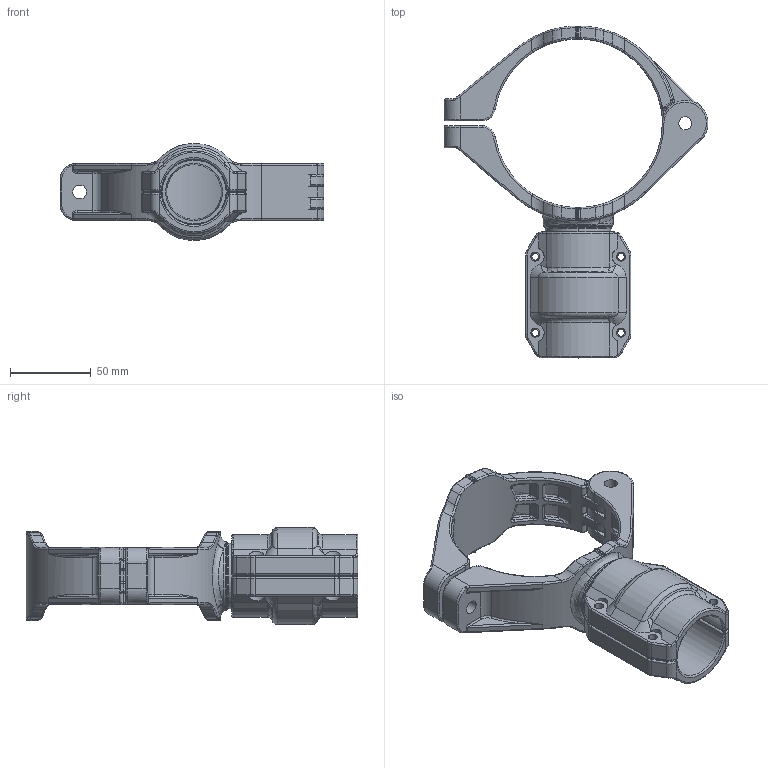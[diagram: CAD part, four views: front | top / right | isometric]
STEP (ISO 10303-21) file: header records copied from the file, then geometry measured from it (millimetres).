
FILE_DESCRIPTION((''),'2;1');
FILE_NAME('2015841099_ASM_6_ASM','2017-05-15T',('Administrator'),(''),'PRO/ENGINEER BY PARAMETRIC TECHNOLOGY CORPORATION, 2009360','PRO/ENGINEER BY PARAMETRIC TECHNOLOGY CORPORATION, 2009360','');
FILE_SCHEMA(('AUTOMOTIVE_DESIGN_CC2 { 1 2 10303 214 -1 1 5 2 }'));
Length unit declared in the file: millimetre
Products named in the file (7): MANIFOLD_SOLID_BREP_102_1; MANIFOLD_SOLID_BREP_103_1; 2015841000_ASM_5_ASM; 201540020001_1; 201540020000_1; 2015400200_ASM_1_ASM; 2015841099_ASM_6_ASM
Assembly tree (6 placements, depth 3):
  2015841099_ASM_6_ASM
    2015841000_ASM_5_ASM
      MANIFOLD_SOLID_BREP_102_1
      MANIFOLD_SOLID_BREP_103_1
    2015400200_ASM_1_ASM
      201540020001_1
      201540020000_1
Bounding box: 163.01 x 204.92 x 59.9 mm (x, y, z)
Volume: 249034.4 mm3; surface area: 91274.7 mm2
Topology: 4 solids, 4 shells, 997 faces, 2416 edges, 1346 vertices
Faces by surface type: cylinder 347, bspline 219, torus 212, plane 138, sphere 71, cone 10
Entity records: 51890 total; most frequent: CARTESIAN_POINT 23276, ORIENTED_EDGE 4634, DIRECTION 4399, PRESENTATION_STYLE_ASSIGNMENT 2321, STYLED_ITEM 2321, CURVE_STYLE 2317, EDGE_CURVE 2317, AXIS2_PLACEMENT_3D 1902
